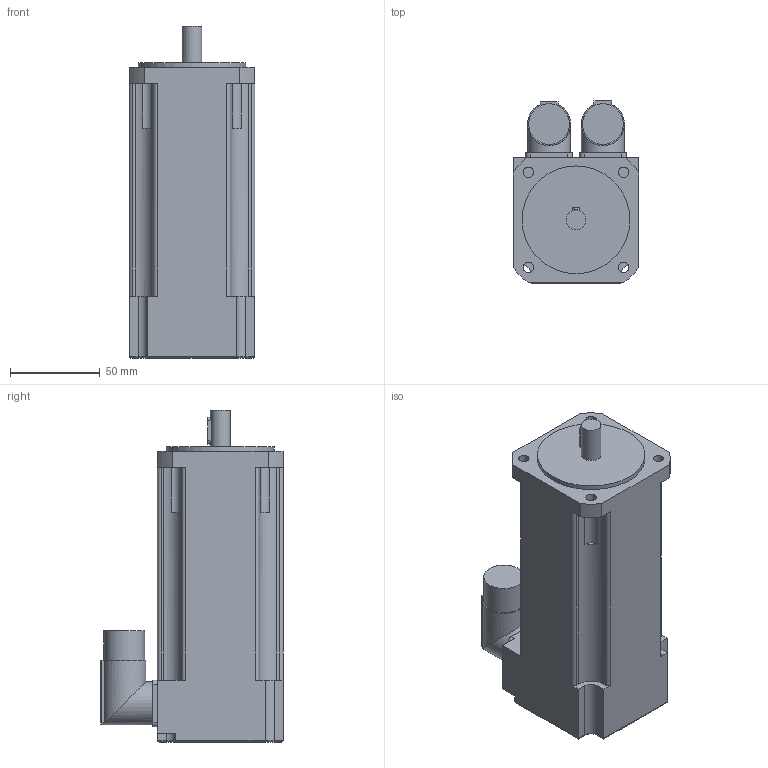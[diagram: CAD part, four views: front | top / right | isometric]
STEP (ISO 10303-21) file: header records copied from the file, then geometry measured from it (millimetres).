
FILE_DESCRIPTION(/* description */ (''),/* implementation_level */ '2;1');
FILE_NAME(/* name */ '\\Lafnas01\disegni\Archivi Lafert\3D\CAD 3D\MODELLI\Assiemi clienti\Serad\Modelli 3D Serad\B36Q\Resolver\Res With Brake\B36E2Qxx6B052033.ipt.stp',/* time_stamp */ '2015-09-07T10:49:29+02:00',/* author */ ('Pastrello Ylenia'),/* organization */ (''),/* preprocessor_version */ 'ST-DEVELOPER v15.6',/* originating_system */ 'Autodesk Inventor 2015',/* authorisation */ '');
FILE_SCHEMA (('CONFIG_CONTROL_DESIGN','AUTOMOTIVE_DESIGN { 1 0 10303 214 3 1 1 }'));
Length unit declared in the file: millimetre
Products named in the file (1): B36E2Qxx6B052033
Bounding box: 70 x 101.5 x 185 mm (x, y, z)
Volume: 769271.9 mm3; surface area: 63541.4 mm2
Topology: 1 solids, 1 shells, 121 faces, 322 edges, 210 vertices
Faces by surface type: plane 59, cylinder 58, torus 4
Full cylindrical faces by diameter (mm): 5.8 x4, 11 x1, 22.7 x2, 24 x2, 60 x1
Entity records: 3806 total; most frequent: CARTESIAN_POINT 678, DIRECTION 676, ORIENTED_EDGE 624, EDGE_CURVE 312, AXIS2_PLACEMENT_3D 244, VERTEX_POINT 210, LINE 188, VECTOR 188
